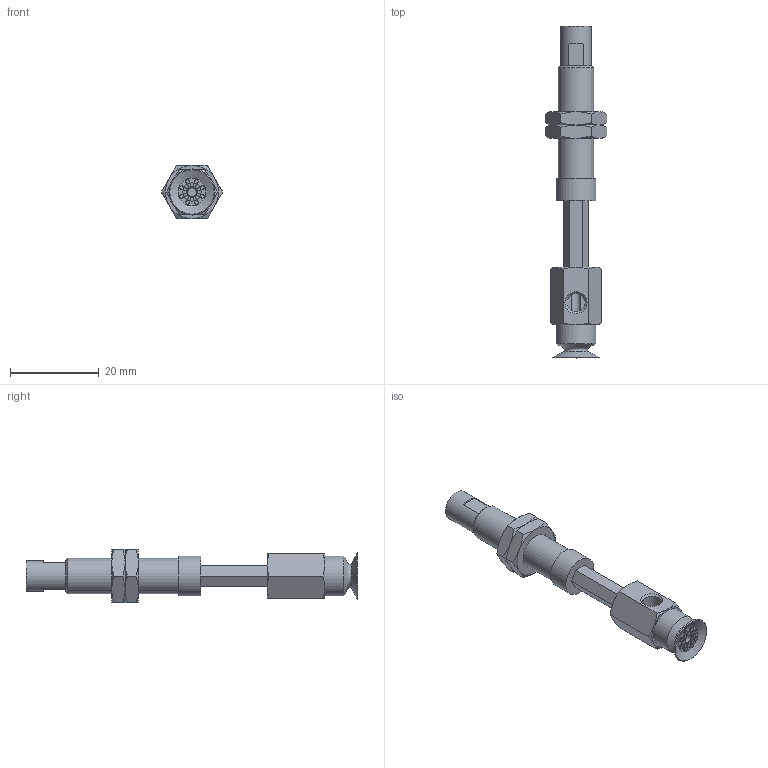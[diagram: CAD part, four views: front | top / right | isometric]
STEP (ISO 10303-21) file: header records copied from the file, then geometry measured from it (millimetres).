
FILE_DESCRIPTION(('STEP AP203'),'1');
FILE_NAME('.stp','2025-03-13T02:52:16',(' '),(' '),'Spatial InterOp 3D',' ',' ');
FILE_SCHEMA(('CONFIG_CONTROL_DESIGN'));
Length unit declared in the file: millimetre
Products named in the file (6): BNABPAYH-10A-15-※; NAPATH-10A-15--M; NAPATH-10A-15--F; Nut-10A-S; CONNECTOR-10A-15-PA; BPAG-10A-※
Assembly tree (6 placements, depth 2):
  BNABPAYH-10A-15-※
    NAPATH-10A-15--M
    NAPATH-10A-15--F
    Nut-10A-S  x2
    CONNECTOR-10A-15-PA
    BPAG-10A-※
Bounding box: 13.86 x 75 x 12 mm (x, y, z)
Volume: 3931.5 mm3; surface area: 4865.1 mm2
Topology: 6 solids, 6 shells, 171 faces, 349 edges, 215 vertices
Faces by surface type: plane 79, cone 51, cylinder 31, torus 10
Full cylindrical faces by diameter (mm): 0.9 x16, 2 x2, 4 x2, 4.134 x2, 5 x1, 6 x2, 7 x1, 7.188 x2, 8 x1, 9 x2
Entity records: 4084 total; most frequent: CARTESIAN_POINT 923, DIRECTION 608, ORIENTED_EDGE 482, AXIS2_PLACEMENT_3D 266, EDGE_CURVE 241, EDGE_LOOP 234, FACE_OUTER_BOUND 188, VERTEX_POINT 179
